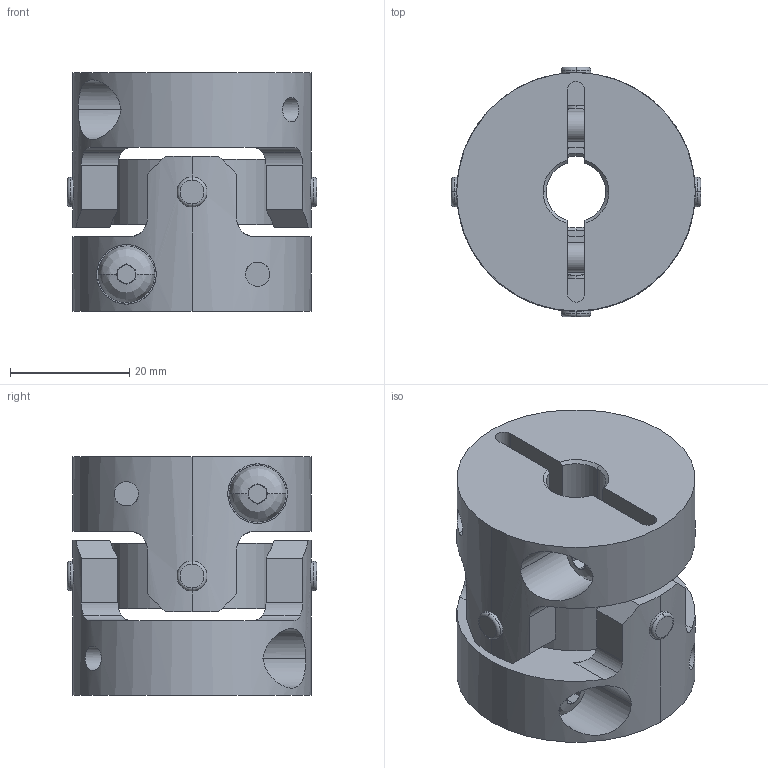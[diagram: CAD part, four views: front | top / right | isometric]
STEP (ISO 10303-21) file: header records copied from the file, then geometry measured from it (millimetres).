
FILE_DESCRIPTION((''),'2;1');
FILE_NAME('UA-40C-10×12.stp','2013-05-22T09:36:33',(''),(''),'AutoCAD STEP 2000i','AutoCAD 2000i',', , ');
FILE_SCHEMA(('CONFIG_CONTROL_DESIGN'));
Length unit declared in the file: millimetre
Products named in the file (6): UA-40C-8×8; 忣兜1; UA-4002-D08-1; BTN-M5; UA-4002-D08; UA40-SEN
Assembly tree (6 placements, depth 3):
  UA-40C-8×8
    忣兜1
    UA-4002-D08-1
      BTN-M5
    UA-4002-D08
      BTN-M5
    UA40-SEN
Bounding box: 41.81 x 41.81 x 40 mm (x, y, z)
Volume: 34304 mm3; surface area: 15619.4 mm2
Topology: 1 solids, 1 shells, 250 faces, 646 edges, 408 vertices
Faces by surface type: plane 122, cylinder 96, cone 16, bspline 8, torus 8
Entity records: 9627 total; most frequent: CARTESIAN_POINT 3371, ORIENTED_EDGE 1292, DIRECTION 1288, EDGE_CURVE 646, AXIS2_PLACEMENT_3D 497, VERTEX_POINT 408, VECTOR 294, LINE 294
